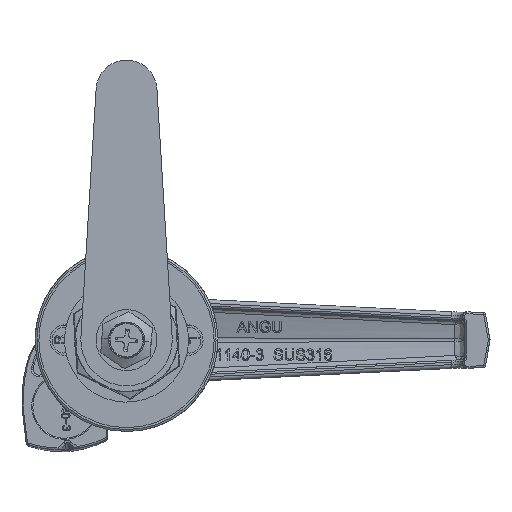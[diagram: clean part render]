
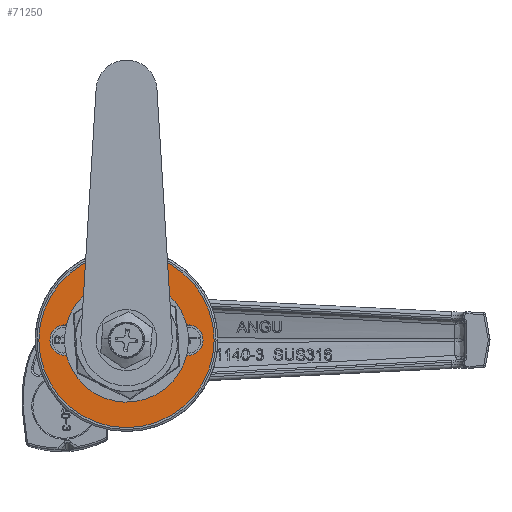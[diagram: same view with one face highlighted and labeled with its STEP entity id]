
A CAD part, front view. The second image highlights one B-rep face of the part: STEP entity #71250.
In plain terms, the highlighted planar face has unit normal (0, -1, 0).
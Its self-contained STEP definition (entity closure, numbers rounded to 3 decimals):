
#362 = CARTESIAN_POINT ( 'NONE',  ( 0., 0., 11.5 ) ) ;
#1643 = DIRECTION ( 'NONE',  ( 0., 1., 0. ) ) ;
#2840 = EDGE_CURVE ( 'NONE', #84535, #51670, #128420, .T. ) ;
#7482 = VECTOR ( 'NONE', #67933, 1000. ) ;
#11024 = FACE_BOUND ( 'NONE', #73020, .T. ) ;
#11437 = DIRECTION ( 'NONE',  ( 0., 0., -1. ) ) ;
#12934 = EDGE_CURVE ( 'NONE', #94806, #28776, #81321, .T. ) ;
#13813 = DIRECTION ( 'NONE',  ( 0., 0., 1. ) ) ;
#16913 = DIRECTION ( 'NONE',  ( -1., 0., 0. ) ) ;
#18409 = VERTEX_POINT ( 'NONE', #47013 ) ;
#21316 = FACE_OUTER_BOUND ( 'NONE', #85129, .T. ) ;
#21726 = CARTESIAN_POINT ( 'NONE',  ( 0., 0., 0. ) ) ;
#23534 = CARTESIAN_POINT ( 'NONE',  ( 16.1, 0., -4. ) ) ;
#24099 = CARTESIAN_POINT ( 'NONE',  ( 0., 0., 23. ) ) ;
#24256 = ORIENTED_EDGE ( 'NONE', *, *, #61070, .F. ) ;
#27781 = CARTESIAN_POINT ( 'NONE',  ( 0., 0., 0. ) ) ;
#28776 = VERTEX_POINT ( 'NONE', #23534 ) ;
#29905 = CARTESIAN_POINT ( 'NONE',  ( -16.1, 0., 0. ) ) ;
#31257 = DIRECTION ( 'NONE',  ( 0., 1., 0. ) ) ;
#34336 = CARTESIAN_POINT ( 'NONE',  ( 0., 0., 0. ) ) ;
#35808 = ORIENTED_EDGE ( 'NONE', *, *, #81830, .F. ) ;
#36028 = CIRCLE ( 'NONE', #77554, 4. ) ;
#36684 = DIRECTION ( 'NONE',  ( 0., 0., -1. ) ) ;
#38762 = VERTEX_POINT ( 'NONE', #48473 ) ;
#42507 = DIRECTION ( 'NONE',  ( 0., 1., 0. ) ) ;
#43119 = EDGE_CURVE ( 'NONE', #48105, #38762, #80198, .T. ) ;
#44069 = DIRECTION ( 'NONE',  ( 1., 0., 0. ) ) ;
#44248 = CIRCLE ( 'NONE', #131633, 23. ) ;
#47013 = CARTESIAN_POINT ( 'NONE',  ( 10.782, 0., 4. ) ) ;
#48105 = VERTEX_POINT ( 'NONE', #79433 ) ;
#48473 = CARTESIAN_POINT ( 'NONE',  ( -10.782, 0., -4. ) ) ;
#50080 = VECTOR ( 'NONE', #16913, 1000. ) ;
#50264 = AXIS2_PLACEMENT_3D ( 'NONE', #102409, #89431, #122921 ) ;
#51670 = VERTEX_POINT ( 'NONE', #362 ) ;
#52096 = PLANE ( 'NONE',  #71699 ) ;
#53456 = ORIENTED_EDGE ( 'NONE', *, *, #125567, .T. ) ;
#56251 = EDGE_CURVE ( 'NONE', #94806, #18409, #79165, .T. ) ;
#57111 = LINE ( 'NONE', #86533, #103033 ) ;
#57982 = CARTESIAN_POINT ( 'NONE',  ( 0., 0., 0. ) ) ;
#61070 = EDGE_CURVE ( 'NONE', #84952, #129002, #98225, .T. ) ;
#62964 = EDGE_CURVE ( 'NONE', #128065, #38762, #72132, .T. ) ;
#63061 = CARTESIAN_POINT ( 'NONE',  ( 0., 0., 0. ) ) ;
#64241 = ORIENTED_EDGE ( 'NONE', *, *, #105673, .F. ) ;
#64446 = ORIENTED_EDGE ( 'NONE', *, *, #43119, .F. ) ;
#64631 = EDGE_CURVE ( 'NONE', #51670, #18409, #98606, .T. ) ;
#67933 = DIRECTION ( 'NONE',  ( 1., 0., 0. ) ) ;
#68252 = AXIS2_PLACEMENT_3D ( 'NONE', #85157, #1643, #126904 ) ;
#69573 = CARTESIAN_POINT ( 'NONE',  ( 16.1, 0., 4. ) ) ;
#71250 = ADVANCED_FACE ( 'NONE', ( #11024, #21316 ), #52096, .F. ) ;
#71616 = DIRECTION ( 'NONE',  ( 0., 0., 1. ) ) ;
#71699 = AXIS2_PLACEMENT_3D ( 'NONE', #63061, #42507, #72604 ) ;
#72132 = CIRCLE ( 'NONE', #50264, 11.5 ) ;
#72604 = DIRECTION ( 'NONE',  ( 0., 0., 1. ) ) ;
#73020 = EDGE_LOOP ( 'NONE', ( #78211, #35808, #80863, #64446, #53456, #113342, #98867, #92524, #79558 ) ) ;
#76053 = CARTESIAN_POINT ( 'NONE',  ( 0., 0., -23. ) ) ;
#77554 = AXIS2_PLACEMENT_3D ( 'NONE', #29905, #31257, #71616 ) ;
#78211 = ORIENTED_EDGE ( 'NONE', *, *, #12934, .T. ) ;
#78213 = CARTESIAN_POINT ( 'NONE',  ( 10.782, 0., -4. ) ) ;
#78954 = CARTESIAN_POINT ( 'NONE',  ( -16.1, 0., 4. ) ) ;
#79165 = LINE ( 'NONE', #69573, #50080 ) ;
#79433 = CARTESIAN_POINT ( 'NONE',  ( -16.1, 0., -4. ) ) ;
#79558 = ORIENTED_EDGE ( 'NONE', *, *, #56251, .F. ) ;
#80198 = LINE ( 'NONE', #112341, #7482 ) ;
#80276 = AXIS2_PLACEMENT_3D ( 'NONE', #57982, #99695, #130474 ) ;
#80863 = ORIENTED_EDGE ( 'NONE', *, *, #62964, .T. ) ;
#81321 = CIRCLE ( 'NONE', #68252, 4. ) ;
#81830 = EDGE_CURVE ( 'NONE', #128065, #28776, #98090, .T. ) ;
#84535 = VERTEX_POINT ( 'NONE', #127713 ) ;
#84952 = VERTEX_POINT ( 'NONE', #76053 ) ;
#85129 = EDGE_LOOP ( 'NONE', ( #24256, #64241 ) ) ;
#85157 = CARTESIAN_POINT ( 'NONE',  ( 16.1, 0., 0. ) ) ;
#86533 = CARTESIAN_POINT ( 'NONE',  ( -10.782, 0., 4. ) ) ;
#89431 = DIRECTION ( 'NONE',  ( 0., 1., 0. ) ) ;
#92524 = ORIENTED_EDGE ( 'NONE', *, *, #64631, .T. ) ;
#94806 = VERTEX_POINT ( 'NONE', #100780 ) ;
#98090 = LINE ( 'NONE', #78213, #100882 ) ;
#98225 = CIRCLE ( 'NONE', #102604, 23. ) ;
#98606 = CIRCLE ( 'NONE', #126930, 11.5 ) ;
#98867 = ORIENTED_EDGE ( 'NONE', *, *, #2840, .T. ) ;
#99309 = DIRECTION ( 'NONE',  ( 0., 1., 0. ) ) ;
#99695 = DIRECTION ( 'NONE',  ( 0., 1., 0. ) ) ;
#100780 = CARTESIAN_POINT ( 'NONE',  ( 16.1, 0., 4. ) ) ;
#100882 = VECTOR ( 'NONE', #44069, 1000. ) ;
#102409 = CARTESIAN_POINT ( 'NONE',  ( 0., 0., 0. ) ) ;
#102604 = AXIS2_PLACEMENT_3D ( 'NONE', #27781, #110558, #36684 ) ;
#103033 = VECTOR ( 'NONE', #128948, 1000. ) ;
#105174 = DIRECTION ( 'NONE',  ( 0., 1., 0. ) ) ;
#105673 = EDGE_CURVE ( 'NONE', #129002, #84952, #44248, .T. ) ;
#107323 = VERTEX_POINT ( 'NONE', #78954 ) ;
#110558 = DIRECTION ( 'NONE',  ( 0., 1., 0. ) ) ;
#112341 = CARTESIAN_POINT ( 'NONE',  ( -16.1, 0., -4. ) ) ;
#113342 = ORIENTED_EDGE ( 'NONE', *, *, #117984, .F. ) ;
#117984 = EDGE_CURVE ( 'NONE', #84535, #107323, #57111, .T. ) ;
#121624 = CARTESIAN_POINT ( 'NONE',  ( 10.782, 0., -4. ) ) ;
#122921 = DIRECTION ( 'NONE',  ( 0., 0., 1. ) ) ;
#125567 = EDGE_CURVE ( 'NONE', #48105, #107323, #36028, .T. ) ;
#126904 = DIRECTION ( 'NONE',  ( 0., 0., 1. ) ) ;
#126930 = AXIS2_PLACEMENT_3D ( 'NONE', #34336, #99309, #13813 ) ;
#127713 = CARTESIAN_POINT ( 'NONE',  ( -10.782, 0., 4. ) ) ;
#128065 = VERTEX_POINT ( 'NONE', #121624 ) ;
#128420 = CIRCLE ( 'NONE', #80276, 11.5 ) ;
#128948 = DIRECTION ( 'NONE',  ( -1., 0., 0. ) ) ;
#129002 = VERTEX_POINT ( 'NONE', #24099 ) ;
#130474 = DIRECTION ( 'NONE',  ( 0., 0., 1. ) ) ;
#131633 = AXIS2_PLACEMENT_3D ( 'NONE', #21726, #105174, #11437 ) ;
